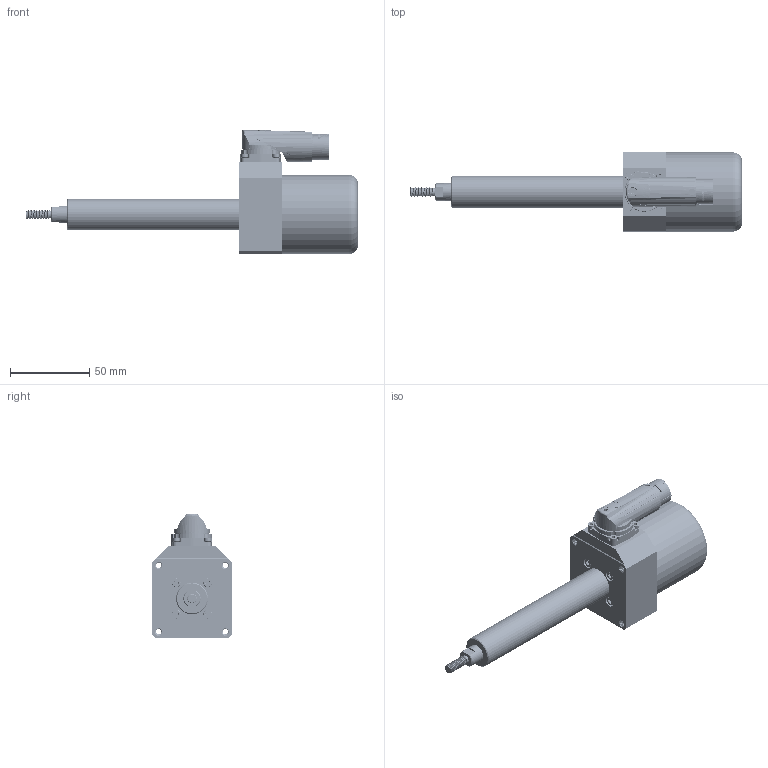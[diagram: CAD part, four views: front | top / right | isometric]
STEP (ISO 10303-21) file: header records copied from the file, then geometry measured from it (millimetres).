
FILE_DESCRIPTION(/* description */ (''),/* implementation_level */ '2;1');
FILE_NAME(/* name */ 'Envelope_LE-BASE-50.XXX.150.XX.step',/* time_stamp */ '2025-05-19T15:09:36+02:00',/* author */ (''),/* organization */ (''),/* preprocessor_version */ 'ST-DEVELOPER v20.1',/* originating_system */ 'Autodesk Translation Framework v14.4.0.0',/* authorisation */ '');
FILE_SCHEMA (('AUTOMOTIVE_DESIGN { 1 0 10303 214 3 1 1 }'));
Length unit declared in the file: millimetre
Products named in the file (6): LE-BASE-50.XXX.150.XX; M15_Intercontec_EED_0600_12+3-polig, Stift; 131020; 118405-T-Flansch25x25; 91290A103_Black-Oxide Alloy Steel Socket Head Screw; 91290A123_Alloy Steel Socket Head Screw
Assembly tree (11 placements, depth 3):
  LE-BASE-50.XXX.150.XX
    M15_Intercontec_EED_0600_12+3-polig, Stift
      131020
      118405-T-Flansch25x25
    91290A103_Black-Oxide Alloy Steel Socket Head Screw  x4
    91290A123_Alloy Steel Socket Head Screw  x4
Bounding box: 209.8 x 50 x 78.42 mm (x, y, z)
Volume: 218788.1 mm3; surface area: 39012.3 mm2
Topology: 11 solids, 11 shells, 2985 faces, 7393 edges, 4876 vertices
Faces by surface type: plane 1783, cylinder 952, cone 132, bspline 80, torus 30, sphere 8
Full cylindrical faces by diameter (mm): 1 x15, 1.2 x3, 1.915 x80, 2.35 x152, 2.5 x80, 2.529 x4, 2.7 x4, 3 x152, 3.06 x1, 3.332 x32, 3.4 x4, 4 x1, 4.109 x10, 4.11 x10, 4.234 x24, 4.5 x4, 4.744 x6, 5 x1, 5.12 x20, 5.5 x5, 5.8 x1, 5.884 x11, 6.5 x4, 11 x1, 11.75 x1, 16.2 x1, 17.025 x1, 18.8 x1, 19.8 x1, 20 x1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
Entity records: 70661 total; most frequent: CARTESIAN_POINT 40087, ORIENTED_EDGE 6780, DIRECTION 5488, EDGE_CURVE 3390, VERTEX_POINT 2239, AXIS2_PLACEMENT_3D 1974, LINE 1540, VECTOR 1540
